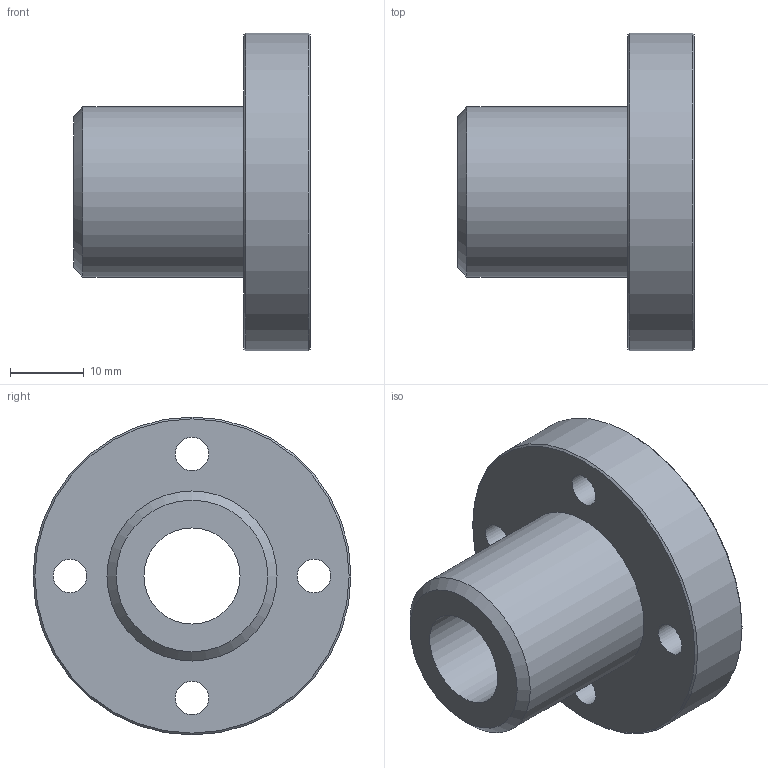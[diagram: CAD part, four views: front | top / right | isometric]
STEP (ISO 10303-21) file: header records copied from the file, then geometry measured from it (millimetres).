
FILE_DESCRIPTION(('STEP AP203'),'1');
FILE_NAME('//192.168.1.1/share/s-4 技術開発/s-4-4_CAD/s-4-4-3_見直し済み/PBC LINEAR修正済み/3D途中/SFPJ/SFPJR/SFPJR13.step','2022-03-24T06:32:29',(' '),(' '),'Spatial InterOp 3D',' ',' ');
FILE_SCHEMA(('CONFIG_CONTROL_DESIGN'));
Length unit declared in the file: millimetre
Products named in the file (1): 1
Bounding box: 32 x 43 x 43 mm (x, y, z)
Volume: 17279 mm3; surface area: 7264.5 mm2
Topology: 1 solids, 1 shells, 21 faces, 44 edges, 30 vertices
Faces by surface type: cylinder 11, plane 7, cone 3
Full cylindrical faces by diameter (mm): 4.5 x4, 7.5 x4, 13 x1, 23 x1, 43 x1
Entity records: 528 total; most frequent: DIRECTION 94, CARTESIAN_POINT 72, EDGE_LOOP 50, ORIENTED_EDGE 50, AXIS2_PLACEMENT_3D 47, FACE_OUTER_BOUND 32, EDGE_CURVE 25, VERTEX_POINT 25
